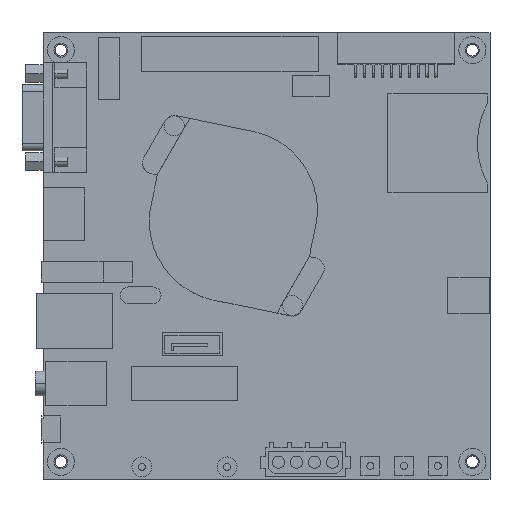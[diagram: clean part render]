
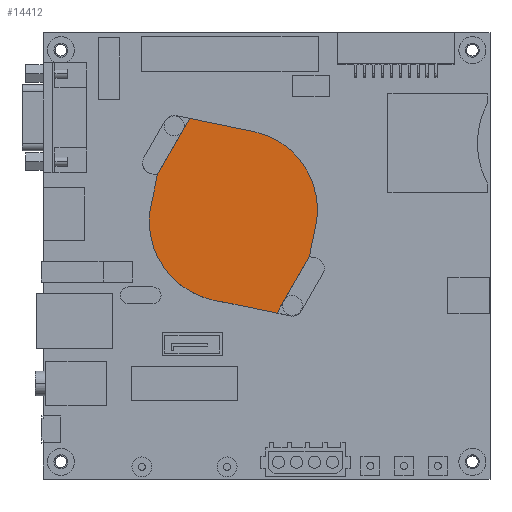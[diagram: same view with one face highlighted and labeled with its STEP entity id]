
A CAD part, top view. The second image highlights one B-rep face of the part: STEP entity #14412.
In plain terms, the highlighted planar face has unit normal (0, 0, 1).
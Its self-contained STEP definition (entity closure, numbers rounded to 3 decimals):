
#2031 = CARTESIAN_POINT ( 'NONE',  ( 70.636, 58.324, 13.25 ) ) ;
#2032 = DIRECTION ( 'NONE',  ( -0.497, -0.868, 0. ) ) ;
#2052 = CARTESIAN_POINT ( 'NONE',  ( 32.865, 98.398, 13.25 ) ) ;
#2053 = DIRECTION ( 'NONE',  ( -0.979, 0.202, 0. ) ) ;
#2251 = CARTESIAN_POINT ( 'NONE',  ( 47.957, 68.342, 13.25 ) ) ;
#2252 = DIRECTION ( 'NONE',  ( 0., 0., 1. ) ) ;
#2253 = DIRECTION ( 'NONE',  ( 1., 0., 0. ) ) ;
#2270 = CARTESIAN_POINT ( 'NONE',  ( 27.442, 81.547, 13.25 ) ) ;
#2271 = DIRECTION ( 'NONE',  ( 0.497, 0.868, 0. ) ) ;
#2330 = CARTESIAN_POINT ( 'NONE',  ( 27.442, 81.547, 13.25 ) ) ;
#2331 = DIRECTION ( 'NONE',  ( -0.202, -0.979, 0. ) ) ;
#3046 = CIRCLE ( 'NONE', #5083, 31.9 ) ;
#3165 = LINE ( 'NONE', #3669, #3166 ) ;
#3166 = VECTOR ( 'NONE', #3670, 1000. ) ;
#3209 = LINE ( 'NONE', #3731, #3210 ) ;
#3210 = VECTOR ( 'NONE', #3732, 1000. ) ;
#3218 = LINE ( 'NONE', #3742, #3219 ) ;
#3219 = VECTOR ( 'NONE', #3743, 1000. ) ;
#3267 = LINE ( 'NONE', #3808, #3269 ) ;
#3269 = VECTOR ( 'NONE', #3809, 1000. ) ;
#3470 = FACE_OUTER_BOUND ( 'NONE', #6182, .T. ) ;
#3517 = CARTESIAN_POINT ( 'NONE',  ( 50.855, 76.934, 13.25 ) ) ;
#3518 = DIRECTION ( 'NONE',  ( 0., 0., 1. ) ) ;
#3519 = DIRECTION ( 'NONE',  ( 1., 0., 0. ) ) ;
#3669 = CARTESIAN_POINT ( 'NONE',  ( 46.62, 45.316, 13.25 ) ) ;
#3670 = DIRECTION ( 'NONE',  ( 0.979, -0.202, 0. ) ) ;
#3731 = CARTESIAN_POINT ( 'NONE',  ( 48.648, 44.897, 13.25 ) ) ;
#3732 = DIRECTION ( 'NONE',  ( 0.979, -0.203, 0. ) ) ;
#3742 = CARTESIAN_POINT ( 'NONE',  ( 52.076, 44.188, 13.25 ) ) ;
#3743 = DIRECTION ( 'NONE',  ( 0.979, -0.202, 0. ) ) ;
#3808 = CARTESIAN_POINT ( 'NONE',  ( 70.843, 59.326, 13.25 ) ) ;
#3809 = DIRECTION ( 'NONE',  ( 0.202, 0.979, 0. ) ) ;
#5083 = AXIS2_PLACEMENT_3D ( 'NONE', #3517, #3518, #3519 ) ;
#5124 = AXIS2_PLACEMENT_3D ( 'NONE', #6372, #6373, #6374 ) ;
#5136 = AXIS2_PLACEMENT_3D ( 'NONE', #6237, #6238, #6239 ) ;
#5153 = AXIS2_PLACEMENT_3D ( 'NONE', #2251, #2252, #2253 ) ;
#5651 = CARTESIAN_POINT ( 'NONE',  ( 25.125, 68.342, 13.25 ) ) ;
#5652 = CARTESIAN_POINT ( 'NONE',  ( 40.659, 46.707, 13.25 ) ) ;
#5667 = CARTESIAN_POINT ( 'NONE',  ( 70.636, 58.324, 13.25 ) ) ;
#5668 = CARTESIAN_POINT ( 'NONE',  ( 61.427, 42.256, 13.25 ) ) ;
#5676 = CARTESIAN_POINT ( 'NONE',  ( 27.442, 81.547, 13.25 ) ) ;
#5677 = CARTESIAN_POINT ( 'NONE',  ( 36.65, 97.616, 13.25 ) ) ;
#5682 = CARTESIAN_POINT ( 'NONE',  ( 25.305, 71.206, 13.25 ) ) ;
#5684 = CARTESIAN_POINT ( 'NONE',  ( 46.62, 45.316, 13.25 ) ) ;
#5686 = CARTESIAN_POINT ( 'NONE',  ( 48.648, 44.897, 13.25 ) ) ;
#5688 = CARTESIAN_POINT ( 'NONE',  ( 52.076, 44.188, 13.25 ) ) ;
#5696 = CARTESIAN_POINT ( 'NONE',  ( 70.843, 59.326, 13.25 ) ) ;
#5698 = CARTESIAN_POINT ( 'NONE',  ( 72.773, 68.665, 13.25 ) ) ;
#5700 = CARTESIAN_POINT ( 'NONE',  ( 55.462, 93.728, 13.25 ) ) ;
#6182 = EDGE_LOOP ( 'NONE', ( #15226, #15227, #15228, #15229, #15230, #15231, #15232, #15233, #15234, #15235, #15236, #15237, #15238 ) ) ;
#6237 = CARTESIAN_POINT ( 'NONE',  ( 47.957, 68.342, 13.25 ) ) ;
#6238 = DIRECTION ( 'NONE',  ( 0., 0., 1. ) ) ;
#6239 = DIRECTION ( 'NONE',  ( 1., 0., 0. ) ) ;
#6363 = CARTESIAN_POINT ( 'NONE',  ( 70.843, 59.326, 13.25 ) ) ;
#6364 = DIRECTION ( 'NONE',  ( 0.202, 0.979, 0. ) ) ;
#6372 = CARTESIAN_POINT ( 'NONE',  ( 50.12, 71.528, 13.25 ) ) ;
#6373 = DIRECTION ( 'NONE',  ( 0., 0., 1. ) ) ;
#6374 = DIRECTION ( 'NONE',  ( -1., 0., 0. ) ) ;
#8009 = LINE ( 'NONE', #2031, #8010 ) ;
#8010 = VECTOR ( 'NONE', #2032, 1000. ) ;
#8024 = LINE ( 'NONE', #2052, #8025 ) ;
#8025 = VECTOR ( 'NONE', #2053, 1000. ) ;
#8278 = VERTEX_POINT ( 'NONE', #5651 ) ;
#8279 = VERTEX_POINT ( 'NONE', #5652 ) ;
#8294 = VERTEX_POINT ( 'NONE', #5667 ) ;
#8295 = VERTEX_POINT ( 'NONE', #5668 ) ;
#8303 = VERTEX_POINT ( 'NONE', #5676 ) ;
#8304 = VERTEX_POINT ( 'NONE', #5677 ) ;
#8309 = VERTEX_POINT ( 'NONE', #5682 ) ;
#8311 = VERTEX_POINT ( 'NONE', #5684 ) ;
#8313 = VERTEX_POINT ( 'NONE', #5686 ) ;
#8315 = VERTEX_POINT ( 'NONE', #5688 ) ;
#8323 = VERTEX_POINT ( 'NONE', #5696 ) ;
#8325 = VERTEX_POINT ( 'NONE', #5698 ) ;
#8327 = VERTEX_POINT ( 'NONE', #5700 ) ;
#11241 = PLANE ( 'NONE',  #15031 ) ;
#11242 = CARTESIAN_POINT ( 'NONE',  ( 26.189, 84.87, 13.25 ) ) ;
#11243 = DIRECTION ( 'NONE',  ( 0., 0., 1. ) ) ;
#11244 = DIRECTION ( 'NONE',  ( 1., 0., 0. ) ) ;
#11670 = EDGE_CURVE ( 'NONE', #8294, #8295, #8009, .T. ) ;
#11679 = EDGE_CURVE ( 'NONE', #8327, #8304, #8024, .T. ) ;
#11771 = EDGE_CURVE ( 'NONE', #8278, #8279, #16938, .T. ) ;
#11779 = EDGE_CURVE ( 'NONE', #8303, #8304, #16951, .T. ) ;
#11808 = EDGE_CURVE ( 'NONE', #8303, #8309, #17007, .T. ) ;
#11863 = EDGE_CURVE ( 'NONE', #8309, #8278, #17107, .T. ) ;
#11921 = EDGE_CURVE ( 'NONE', #8294, #8323, #17212, .T. ) ;
#11925 = EDGE_CURVE ( 'NONE', #8325, #8327, #17220, .T. ) ;
#12128 = EDGE_CURVE ( 'NONE', #8279, #8311, #3046, .T. ) ;
#12261 = EDGE_CURVE ( 'NONE', #8311, #8313, #3165, .T. ) ;
#12343 = EDGE_CURVE ( 'NONE', #8313, #8315, #3209, .T. ) ;
#12355 = EDGE_CURVE ( 'NONE', #8315, #8295, #3218, .T. ) ;
#12436 = EDGE_CURVE ( 'NONE', #8323, #8325, #3267, .T. ) ;
#14412 = ADVANCED_FACE ( 'NONE', ( #3470 ), #11241, .T. ) ;
#15031 = AXIS2_PLACEMENT_3D ( 'NONE', #11242, #11243, #11244 ) ;
#15226 = ORIENTED_EDGE ( 'NONE', *, *, #11670, .F. ) ;
#15227 = ORIENTED_EDGE ( 'NONE', *, *, #11921, .T. ) ;
#15228 = ORIENTED_EDGE ( 'NONE', *, *, #12436, .T. ) ;
#15229 = ORIENTED_EDGE ( 'NONE', *, *, #11925, .T. ) ;
#15230 = ORIENTED_EDGE ( 'NONE', *, *, #11679, .T. ) ;
#15231 = ORIENTED_EDGE ( 'NONE', *, *, #11779, .F. ) ;
#15232 = ORIENTED_EDGE ( 'NONE', *, *, #11808, .T. ) ;
#15233 = ORIENTED_EDGE ( 'NONE', *, *, #11863, .T. ) ;
#15234 = ORIENTED_EDGE ( 'NONE', *, *, #11771, .T. ) ;
#15235 = ORIENTED_EDGE ( 'NONE', *, *, #12128, .T. ) ;
#15236 = ORIENTED_EDGE ( 'NONE', *, *, #12261, .T. ) ;
#15237 = ORIENTED_EDGE ( 'NONE', *, *, #12343, .T. ) ;
#15238 = ORIENTED_EDGE ( 'NONE', *, *, #12355, .T. ) ;
#16938 = CIRCLE ( 'NONE', #5153, 22.832 ) ;
#16951 = LINE ( 'NONE', #2270, #16952 ) ;
#16952 = VECTOR ( 'NONE', #2271, 1000. ) ;
#17007 = LINE ( 'NONE', #2330, #17008 ) ;
#17008 = VECTOR ( 'NONE', #2331, 1000. ) ;
#17107 = CIRCLE ( 'NONE', #5136, 22.832 ) ;
#17212 = LINE ( 'NONE', #6363, #17213 ) ;
#17213 = VECTOR ( 'NONE', #6364, 1000. ) ;
#17220 = CIRCLE ( 'NONE', #5124, 22.833 ) ;
